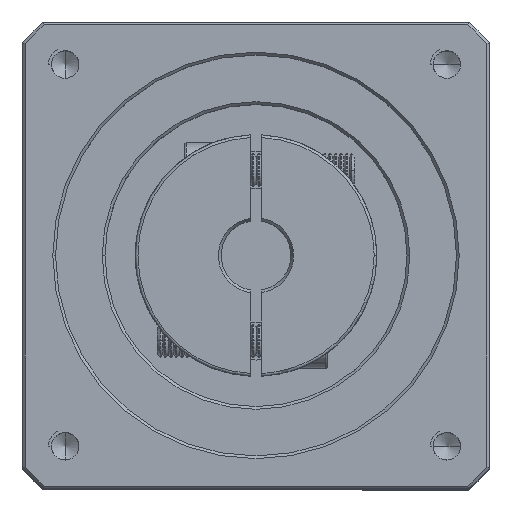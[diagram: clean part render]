
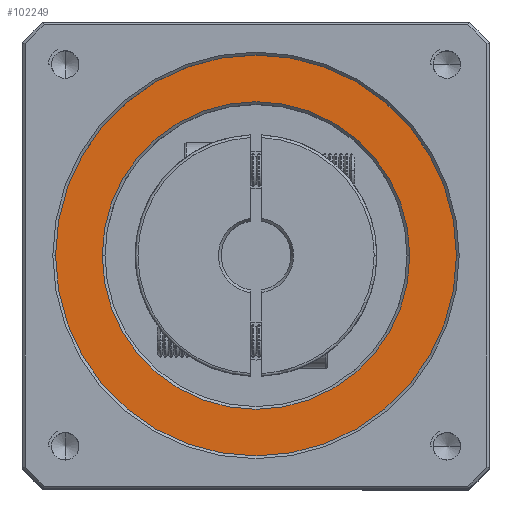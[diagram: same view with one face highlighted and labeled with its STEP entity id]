
A CAD part, top view. The second image highlights one B-rep face of the part: STEP entity #102249.
In plain terms, the highlighted planar face has unit normal (0, 0, 1).
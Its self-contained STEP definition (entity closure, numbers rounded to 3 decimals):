
#2021 = CIRCLE ( 'NONE', #66494, 28. ) ;
#4240 = CARTESIAN_POINT ( 'NONE',  ( -23.958, -3.838, 176.5 ) ) ;
#6369 = EDGE_CURVE ( 'NONE', #64530, #43964, #97401, .T. ) ;
#10133 = CIRCLE ( 'NONE', #80742, 36.5 ) ;
#20645 = DIRECTION ( 'NONE',  ( 1., 0., 0. ) ) ;
#21993 = VERTEX_POINT ( 'NONE', #66312 ) ;
#22575 = DIRECTION ( 'NONE',  ( 1., 0., 0. ) ) ;
#23233 = EDGE_CURVE ( 'NONE', #21993, #45443, #32836, .T. ) ;
#25730 = CARTESIAN_POINT ( 'NONE',  ( 4.042, -3.838, 176.5 ) ) ;
#26897 = FACE_OUTER_BOUND ( 'NONE', #105619, .T. ) ;
#28321 = FACE_BOUND ( 'NONE', #53635, .T. ) ;
#30965 = ORIENTED_EDGE ( 'NONE', *, *, #23233, .T. ) ;
#32836 = CIRCLE ( 'NONE', #36112, 28. ) ;
#36102 = DIRECTION ( 'NONE',  ( 1., 0., 0. ) ) ;
#36112 = AXIS2_PLACEMENT_3D ( 'NONE', #93245, #103284, #36102 ) ;
#41742 = DIRECTION ( 'NONE',  ( 0., 0., 1. ) ) ;
#42642 = AXIS2_PLACEMENT_3D ( 'NONE', #70168, #41742, #51323 ) ;
#43964 = VERTEX_POINT ( 'NONE', #110838 ) ;
#45443 = VERTEX_POINT ( 'NONE', #25730 ) ;
#51323 = DIRECTION ( 'NONE',  ( 1., 0., 0. ) ) ;
#53635 = EDGE_LOOP ( 'NONE', ( #102134, #30965 ) ) ;
#58997 = CARTESIAN_POINT ( 'NONE',  ( -23.958, -3.838, 176.5 ) ) ;
#64530 = VERTEX_POINT ( 'NONE', #73273 ) ;
#66312 = CARTESIAN_POINT ( 'NONE',  ( -51.958, -3.838, 176.5 ) ) ;
#66494 = AXIS2_PLACEMENT_3D ( 'NONE', #4240, #117118, #22575 ) ;
#67398 = ORIENTED_EDGE ( 'NONE', *, *, #6369, .T. ) ;
#70168 = CARTESIAN_POINT ( 'NONE',  ( -23.958, -3.838, 176.5 ) ) ;
#73273 = CARTESIAN_POINT ( 'NONE',  ( -60.458, -3.838, 176.5 ) ) ;
#73371 = DIRECTION ( 'NONE',  ( 1., 0., 0. ) ) ;
#80742 = AXIS2_PLACEMENT_3D ( 'NONE', #121235, #92159, #73371 ) ;
#88210 = DIRECTION ( 'NONE',  ( 0., 0., 1. ) ) ;
#89384 = EDGE_CURVE ( 'NONE', #45443, #21993, #2021, .T. ) ;
#92159 = DIRECTION ( 'NONE',  ( 0., 0., 1. ) ) ;
#93245 = CARTESIAN_POINT ( 'NONE',  ( -23.958, -3.838, 176.5 ) ) ;
#94352 = EDGE_CURVE ( 'NONE', #43964, #64530, #10133, .T. ) ;
#97401 = CIRCLE ( 'NONE', #114300, 36.5 ) ;
#102134 = ORIENTED_EDGE ( 'NONE', *, *, #89384, .T. ) ;
#102249 = ADVANCED_FACE ( 'NONE', ( #26897, #28321 ), #110166, .T. ) ;
#103284 = DIRECTION ( 'NONE',  ( 0., 0., -1. ) ) ;
#105619 = EDGE_LOOP ( 'NONE', ( #114156, #67398 ) ) ;
#110166 = PLANE ( 'NONE',  #42642 ) ;
#110838 = CARTESIAN_POINT ( 'NONE',  ( 12.542, -3.838, 176.5 ) ) ;
#114156 = ORIENTED_EDGE ( 'NONE', *, *, #94352, .T. ) ;
#114300 = AXIS2_PLACEMENT_3D ( 'NONE', #58997, #88210, #20645 ) ;
#117118 = DIRECTION ( 'NONE',  ( 0., 0., -1. ) ) ;
#121235 = CARTESIAN_POINT ( 'NONE',  ( -23.958, -3.838, 176.5 ) ) ;
